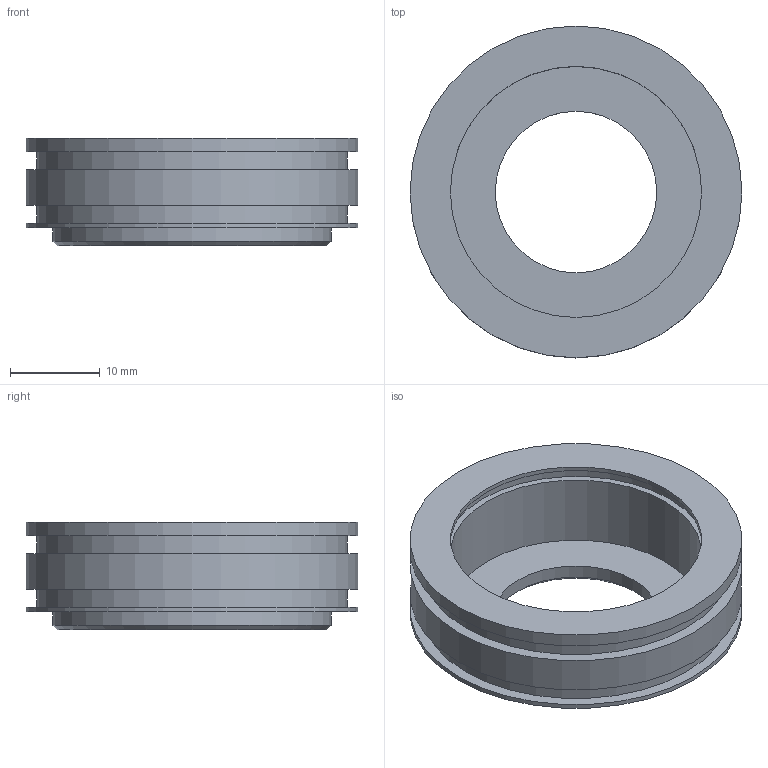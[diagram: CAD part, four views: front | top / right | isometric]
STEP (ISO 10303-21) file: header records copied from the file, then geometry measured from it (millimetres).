
FILE_DESCRIPTION(('Open CASCADE Model'),'2;1');
FILE_NAME('Open CASCADE Shape Model','2026-09-23T04:48:10',('Author'),( 'Open CASCADE'),'Open CASCADE STEP processor 7.9','Open CASCADE 7.9' ,'Unknown');
FILE_SCHEMA(('AUTOMOTIVE_DESIGN { 1 0 10303 214 1 1 1 1 }'));
Length unit declared in the file: millimetre
Products named in the file (1): Open CASCADE STEP translator 7.9 1
Bounding box: 37 x 37 x 12 mm (x, y, z)
Volume: 4954 mm3; surface area: 4587.9 mm2
Topology: 1 solids, 1 shells, 22 faces, 34 edges, 22 vertices
Faces by surface type: plane 10, cylinder 10, cone 2
Full cylindrical faces by diameter (mm): 18 x1, 28 x2, 29.4 x1, 31 x1, 34.6 x2, 37 x3
Entity records: 962 total; most frequent: DIRECTION 164, CARTESIAN_POINT 163, ORIENTED_EDGE 68, PCURVE 68, DEFINITIONAL_REPRESENTATION 68, LINE 56, VECTOR 56, AXIS2_PLACEMENT_3D 45
